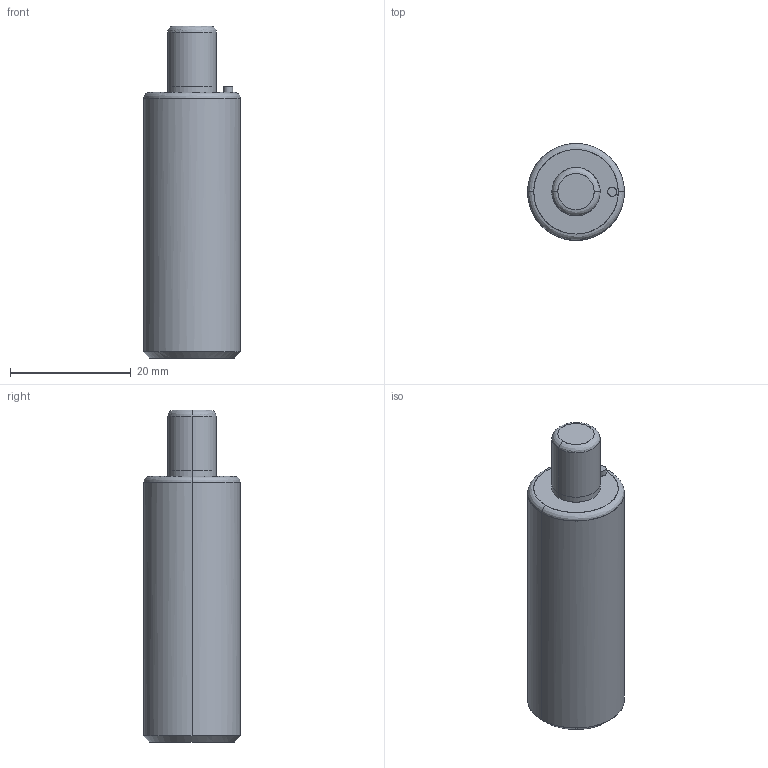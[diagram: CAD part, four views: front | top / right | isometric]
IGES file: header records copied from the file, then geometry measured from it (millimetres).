
Global section: file name: E:\UnigraphicsGraphicData\MISUMI_PRESS-PARTS\IGES\3d_mgsc16-10_04565_r00.igs; native system: NX V5.0; preprocessor: UGS NX IGES V5.0; author: MISUMI; date: 20110105.161434; units: millimetre
Bounding box: 16 x 15.98 x 55 mm (x, y, z)
Surface area: 2992 mm2 (no closed solid volume)
Topology: 0 solids, 0 shells, 24 faces, 136 edges, 134 vertices
Faces by surface type: bspline 24
